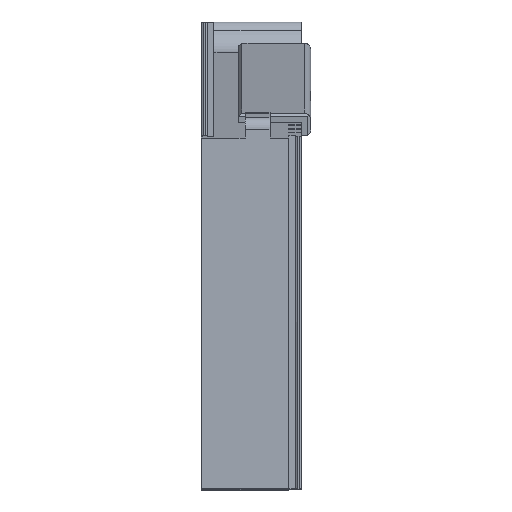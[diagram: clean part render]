
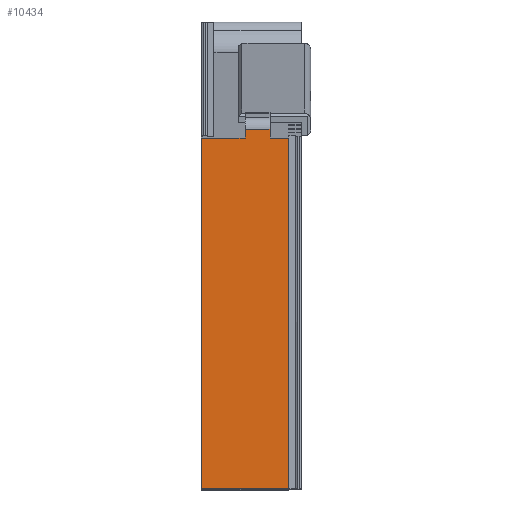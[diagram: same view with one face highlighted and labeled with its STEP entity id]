
A CAD part, top view. The second image highlights one B-rep face of the part: STEP entity #10434.
In plain terms, the highlighted planar face has unit normal (0, 0, 1).
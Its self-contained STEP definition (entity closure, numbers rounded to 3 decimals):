
#72 = DIRECTION ( 'NONE',  ( 1., 0., 0. ) ) ;
#192 = CARTESIAN_POINT ( 'NONE',  ( 1876.845, 0., -1204.638 ) ) ;
#397 = FACE_OUTER_BOUND ( 'NONE', #4397, .T. ) ;
#813 = DIRECTION ( 'NONE',  ( 1., 0., 0. ) ) ;
#889 = VERTEX_POINT ( 'NONE', #192 ) ;
#905 = VECTOR ( 'NONE', #5838, 1000. ) ;
#977 = ORIENTED_EDGE ( 'NONE', *, *, #8058, .T. ) ;
#1454 = VERTEX_POINT ( 'NONE', #7373 ) ;
#1557 = DIRECTION ( 'NONE',  ( 0., 0., -1. ) ) ;
#1579 = CARTESIAN_POINT ( 'NONE',  ( 1887.845, 57.618, -1204.638 ) ) ;
#1860 = CARTESIAN_POINT ( 'NONE',  ( 1887.845, 56.25, -1204.638 ) ) ;
#2244 = LINE ( 'NONE', #6161, #5662 ) ;
#2497 = LINE ( 'NONE', #12410, #6763 ) ;
#2504 = LINE ( 'NONE', #10524, #5713 ) ;
#3001 = EDGE_CURVE ( 'NONE', #889, #3581, #2504, .T. ) ;
#3567 = LINE ( 'NONE', #4018, #3653 ) ;
#3569 = VERTEX_POINT ( 'NONE', #8095 ) ;
#3581 = VERTEX_POINT ( 'NONE', #10468 ) ;
#3653 = VECTOR ( 'NONE', #10725, 1000. ) ;
#4018 = CARTESIAN_POINT ( 'NONE',  ( 1890.845, 75., -1204.638 ) ) ;
#4056 = VERTEX_POINT ( 'NONE', #1579 ) ;
#4386 = DIRECTION ( 'NONE',  ( 1., 0., 0. ) ) ;
#4397 = EDGE_LOOP ( 'NONE', ( #5632, #10600, #9439, #8255, #8290, #7337, #977, #6548 ) ) ;
#4648 = VERTEX_POINT ( 'NONE', #12298 ) ;
#4734 = EDGE_CURVE ( 'NONE', #4648, #3581, #3567, .T. ) ;
#4795 = DIRECTION ( 'NONE',  ( 0., -1., 0. ) ) ;
#4892 = LINE ( 'NONE', #5941, #8434 ) ;
#4924 = EDGE_CURVE ( 'NONE', #3569, #4056, #2497, .T. ) ;
#5463 = EDGE_CURVE ( 'NONE', #12553, #4648, #4892, .T. ) ;
#5538 = DIRECTION ( 'NONE',  ( -1., 0., 0. ) ) ;
#5632 = ORIENTED_EDGE ( 'NONE', *, *, #4734, .F. ) ;
#5662 = VECTOR ( 'NONE', #8296, 1000. ) ;
#5692 = VECTOR ( 'NONE', #4795, 1000. ) ;
#5707 = LINE ( 'NONE', #12557, #5692 ) ;
#5713 = VECTOR ( 'NONE', #813, 1000. ) ;
#5838 = DIRECTION ( 'NONE',  ( 0., -1., 0. ) ) ;
#5941 = CARTESIAN_POINT ( 'NONE',  ( 1869.845, 56.25, -1204.638 ) ) ;
#6110 = EDGE_CURVE ( 'NONE', #3569, #10397, #5707, .T. ) ;
#6161 = CARTESIAN_POINT ( 'NONE',  ( 1869.845, 56.25, -1204.638 ) ) ;
#6517 = PLANE ( 'NONE',  #12526 ) ;
#6548 = ORIENTED_EDGE ( 'NONE', *, *, #3001, .T. ) ;
#6763 = VECTOR ( 'NONE', #4386, 1000. ) ;
#7337 = ORIENTED_EDGE ( 'NONE', *, *, #10981, .F. ) ;
#7341 = CARTESIAN_POINT ( 'NONE',  ( 1887.845, 56.25, -1204.638 ) ) ;
#7373 = CARTESIAN_POINT ( 'NONE',  ( 1876.845, 56.25, -1204.638 ) ) ;
#7376 = LINE ( 'NONE', #8104, #8604 ) ;
#7661 = EDGE_CURVE ( 'NONE', #4056, #12553, #10790, .T. ) ;
#8058 = EDGE_CURVE ( 'NONE', #1454, #889, #7376, .T. ) ;
#8095 = CARTESIAN_POINT ( 'NONE',  ( 1883.845, 57.618, -1204.638 ) ) ;
#8104 = CARTESIAN_POINT ( 'NONE',  ( 1876.845, 75., -1204.638 ) ) ;
#8255 = ORIENTED_EDGE ( 'NONE', *, *, #4924, .F. ) ;
#8290 = ORIENTED_EDGE ( 'NONE', *, *, #6110, .T. ) ;
#8296 = DIRECTION ( 'NONE',  ( 1., 0., 0. ) ) ;
#8402 = CARTESIAN_POINT ( 'NONE',  ( 1883.845, 56.25, -1204.638 ) ) ;
#8434 = VECTOR ( 'NONE', #72, 1000. ) ;
#8604 = VECTOR ( 'NONE', #12080, 1000. ) ;
#9439 = ORIENTED_EDGE ( 'NONE', *, *, #7661, .F. ) ;
#10397 = VERTEX_POINT ( 'NONE', #8402 ) ;
#10434 = ADVANCED_FACE ( 'NONE', ( #397 ), #6517, .F. ) ;
#10468 = CARTESIAN_POINT ( 'NONE',  ( 1890.845, 0., -1204.638 ) ) ;
#10487 = CARTESIAN_POINT ( 'NONE',  ( 1876.845, 75., -1204.638 ) ) ;
#10524 = CARTESIAN_POINT ( 'NONE',  ( 1876.845, 0., -1204.638 ) ) ;
#10600 = ORIENTED_EDGE ( 'NONE', *, *, #5463, .F. ) ;
#10725 = DIRECTION ( 'NONE',  ( 0., -1., 0. ) ) ;
#10790 = LINE ( 'NONE', #1860, #905 ) ;
#10981 = EDGE_CURVE ( 'NONE', #1454, #10397, #2244, .T. ) ;
#12080 = DIRECTION ( 'NONE',  ( 0., -1., 0. ) ) ;
#12298 = CARTESIAN_POINT ( 'NONE',  ( 1890.845, 56.25, -1204.638 ) ) ;
#12410 = CARTESIAN_POINT ( 'NONE',  ( 1883.845, 57.618, -1204.638 ) ) ;
#12526 = AXIS2_PLACEMENT_3D ( 'NONE', #10487, #1557, #5538 ) ;
#12553 = VERTEX_POINT ( 'NONE', #7341 ) ;
#12557 = CARTESIAN_POINT ( 'NONE',  ( 1883.845, 56.25, -1204.638 ) ) ;
